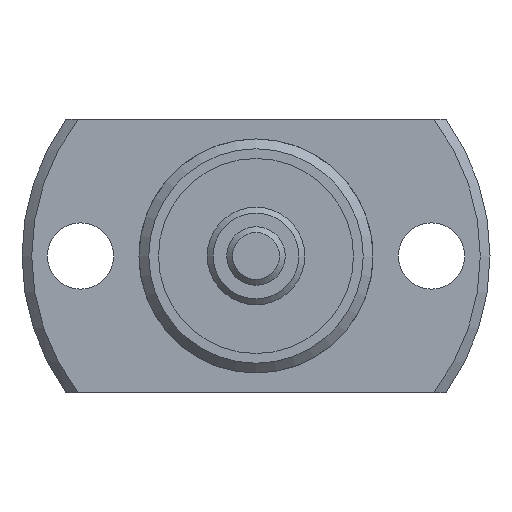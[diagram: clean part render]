
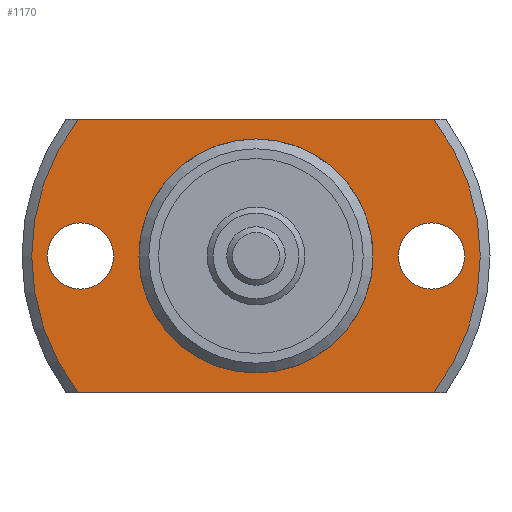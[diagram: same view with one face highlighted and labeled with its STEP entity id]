
A CAD part, left-side view. The second image highlights one B-rep face of the part: STEP entity #1170.
In plain terms, the highlighted planar face has unit normal (-1, 0, 0).
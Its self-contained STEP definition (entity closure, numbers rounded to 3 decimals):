
#121=CIRCLE('',#1303,5.8);
#124=CIRCLE('',#1307,11.5);
#130=CIRCLE('',#1318,1.7);
#131=CIRCLE('',#1319,1.7);
#132=CIRCLE('',#1320,11.5);
#274=ORIENTED_EDGE('',*,*,#541,.T.);
#275=ORIENTED_EDGE('',*,*,#542,.T.);
#276=ORIENTED_EDGE('',*,*,#530,.F.);
#277=ORIENTED_EDGE('',*,*,#543,.T.);
#278=ORIENTED_EDGE('',*,*,#544,.F.);
#279=ORIENTED_EDGE('',*,*,#545,.T.);
#280=ORIENTED_EDGE('',*,*,#524,.T.);
#524=EDGE_CURVE('',#670,#670,#121,.T.);
#530=EDGE_CURVE('',#675,#676,#124,.T.);
#541=EDGE_CURVE('',#685,#685,#130,.T.);
#542=EDGE_CURVE('',#686,#686,#131,.T.);
#543=EDGE_CURVE('',#675,#687,#760,.T.);
#544=EDGE_CURVE('',#688,#687,#132,.T.);
#545=EDGE_CURVE('',#688,#676,#761,.T.);
#670=VERTEX_POINT('',#1914);
#675=VERTEX_POINT('',#1928);
#676=VERTEX_POINT('',#1930);
#685=VERTEX_POINT('',#1964);
#686=VERTEX_POINT('',#1966);
#687=VERTEX_POINT('',#1968);
#688=VERTEX_POINT('',#1970);
#760=LINE('',#1967,#820);
#761=LINE('',#1971,#821);
#820=VECTOR('',#1583,1000.);
#821=VECTOR('',#1586,1000.);
#914=EDGE_LOOP('',(#274));
#915=EDGE_LOOP('',(#275));
#916=EDGE_LOOP('',(#276,#277,#278,#279));
#917=EDGE_LOOP('',(#280));
#1034=FACE_BOUND('',#914,.T.);
#1035=FACE_BOUND('',#915,.T.);
#1036=FACE_BOUND('',#916,.T.);
#1037=FACE_BOUND('',#917,.T.);
#1111=PLANE('',#1317);
#1170=ADVANCED_FACE('',(#1034,#1035,#1036,#1037),#1111,.F.);
#1303=AXIS2_PLACEMENT_3D('',#1913,#1545,#1546);
#1307=AXIS2_PLACEMENT_3D('',#1929,#1555,#1556);
#1317=AXIS2_PLACEMENT_3D('',#1962,#1577,#1578);
#1318=AXIS2_PLACEMENT_3D('',#1963,#1579,#1580);
#1319=AXIS2_PLACEMENT_3D('',#1965,#1581,#1582);
#1320=AXIS2_PLACEMENT_3D('',#1969,#1584,#1585);
#1545=DIRECTION('',(1.,0.,0.));
#1546=DIRECTION('',(0.,0.,-1.));
#1555=DIRECTION('',(1.,0.,0.));
#1556=DIRECTION('',(0.,0.,-1.));
#1577=DIRECTION('',(1.,0.,0.));
#1578=DIRECTION('',(0.,0.,-1.));
#1579=DIRECTION('',(1.,0.,0.));
#1580=DIRECTION('',(0.,0.,-1.));
#1581=DIRECTION('',(1.,0.,0.));
#1582=DIRECTION('',(0.,0.,-1.));
#1583=DIRECTION('',(0.,-1.,0.));
#1584=DIRECTION('',(1.,0.,0.));
#1585=DIRECTION('',(0.,0.,-1.));
#1586=DIRECTION('',(0.,1.,0.));
#1913=CARTESIAN_POINT('',(18.,0.,0.));
#1914=CARTESIAN_POINT('',(18.,0.,-5.8));
#1928=CARTESIAN_POINT('',(18.,9.124,-7.));
#1929=CARTESIAN_POINT('',(18.,0.,0.));
#1930=CARTESIAN_POINT('',(18.,9.124,7.));
#1962=CARTESIAN_POINT('',(18.,5.8,0.));
#1963=CARTESIAN_POINT('',(18.,-9.,0.));
#1964=CARTESIAN_POINT('',(18.,-9.,-1.7));
#1965=CARTESIAN_POINT('',(18.,9.,0.));
#1966=CARTESIAN_POINT('',(18.,9.,-1.7));
#1967=CARTESIAN_POINT('',(18.,5.8,-7.));
#1968=CARTESIAN_POINT('',(18.,-9.124,-7.));
#1969=CARTESIAN_POINT('',(18.,0.,0.));
#1970=CARTESIAN_POINT('',(18.,-9.124,7.));
#1971=CARTESIAN_POINT('',(18.,5.8,7.));
